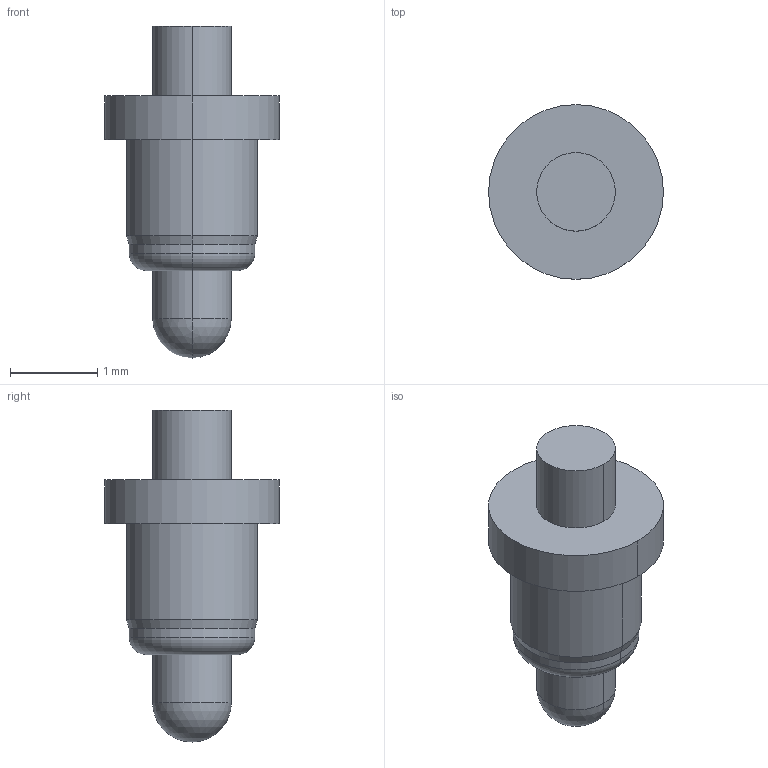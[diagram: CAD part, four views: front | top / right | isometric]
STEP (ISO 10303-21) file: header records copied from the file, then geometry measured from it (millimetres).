
FILE_DESCRIPTION((''),'2;1');
FILE_NAME('PRT0011','2023-05-25T19:53:47',('USER'),(''),'CREO PARAMETRIC BY PTC INC, 2020154','CREO PARAMETRIC BY PTC INC, 2020154','');
FILE_SCHEMA(('CONFIG_CONTROL_DESIGN'));
Length unit declared in the file: millimetre
Products named in the file (1): PRT0011
Bounding box: 2 x 2 x 3.8 mm (x, y, z)
Volume: 5.2 mm3; surface area: 20.4 mm2
Topology: 1 solids, 1 shells, 20 faces, 40 edges, 23 vertices
Faces by surface type: cylinder 10, plane 4, cone 2, torus 2, sphere 2
Entity records: 550 total; most frequent: DIRECTION 104, CARTESIAN_POINT 81, ORIENTED_EDGE 76, AXIS2_PLACEMENT_3D 46, EDGE_CURVE 38, CIRCLE 26, VERTEX_POINT 23, EDGE_LOOP 23
